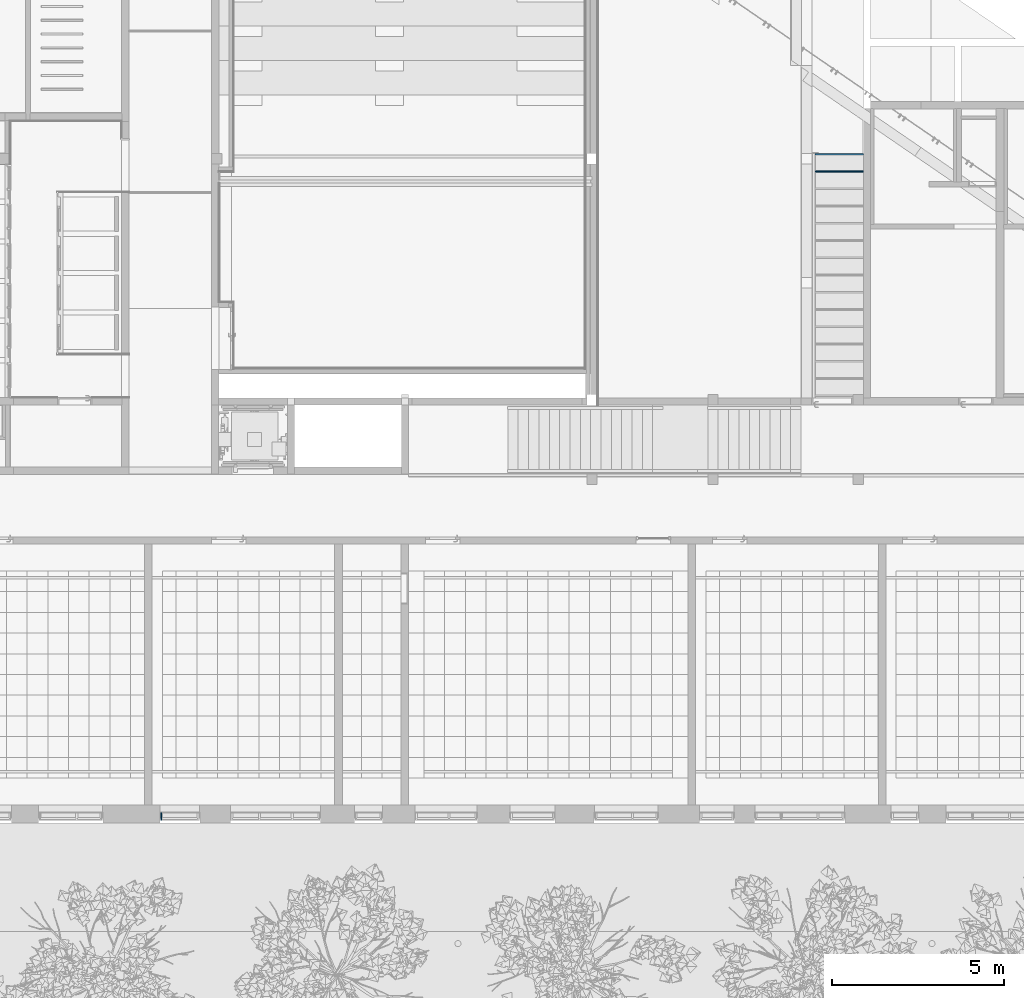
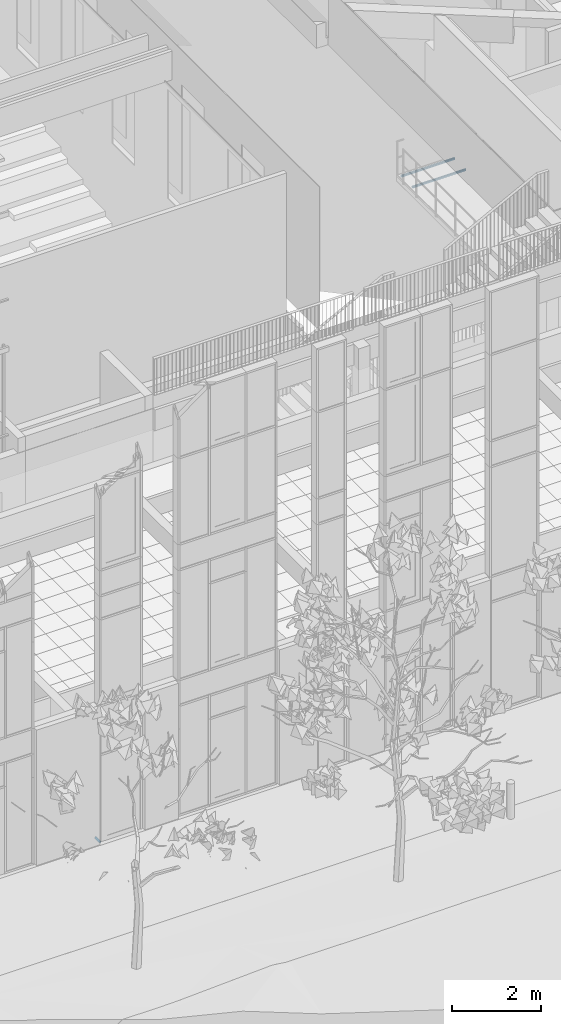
# One storey, part 83 of 246: 2 beams, 1 member, 1 element without a shape of its own.
"""IFC2X3 building model written with IfcOpenShell, lengths in millimetres."""

import ifcopenshell
import ifcopenshell.guid

model = None  # the IFC model being written
_history = None  # IfcOwnerHistory: only IFC2X3 demands one
_inside = {}  # id of a spatial element -> (the spatial element, [elements in it])
_under = {}  # id of a project, library or spatial element -> (it, [spatial elements below it])
_declared = {}  # id of a project -> (the project, [libraries it declares])
_typed = {}  # id of a type object -> (the type object, [elements of that type])
_made_of = {}  # id of a material, layer set ... -> (it, [elements and type objects made of it])


def new_model(schema):
    """Start an empty IFC model of exactly this schema.

    Asked for "IFC4X3", IfcOpenShell would pick the latest addendum, in which some entities
    have other attributes; the version numbers below select the first issue.
    IFC2X3 requires an IfcOwnerHistory on every rooted entity: one is made here for all.
    """
    global model, _history
    if schema == "IFC4X3":
        model = ifcopenshell.file(schema_version=(4, 3, 0, 0))
    else:
        model = ifcopenshell.file(schema=schema)
    _inside.clear()
    _under.clear()
    _declared.clear()
    _typed.clear()
    _made_of.clear()
    _history = None
    if model.schema == "IFC2X3":
        org = make("IfcOrganization", Name="unknown")
        user = make(
            "IfcPersonAndOrganization",
            ThePerson=make("IfcPerson", FamilyName="unknown"),
            TheOrganization=org,
        )
        app = make(
            "IfcApplication",
            ApplicationDeveloper=org,
            Version="unknown",
            ApplicationFullName="unknown",
            ApplicationIdentifier="unknown",
        )
        _history = make(
            "IfcOwnerHistory",
            OwningUser=user,
            OwningApplication=app,
            ChangeAction="ADDED",
            CreationDate=0,
        )
    return model


def make(cls, **values):
    """One entity of the class cls with the attributes given. An attribute that is None is left unset."""
    return model.create_entity(
        cls, **{name: value for name, value in values.items() if value is not None}
    )


def entity(cls, *values):
    """Any entity or typed value of the class cls, its attributes in the order of the schema. None: left unset."""
    e = model.create_entity(cls)
    for i, value in enumerate(values):
        if value is not None:
            e[i] = value
    return e


def rooted(cls, **values):
    """An entity with a GlobalId (a new one), such as an element, a storey or a relation."""
    return make(cls, GlobalId=ifcopenshell.guid.new(), OwnerHistory=_history, **values)


def si_unit(unit_type, name, prefix=None):
    """IfcSIUnit, for example si_unit("LENGTHUNIT", "METRE", prefix="MILLI")."""
    return make("IfcSIUnit", UnitType=unit_type, Prefix=prefix, Name=name)


def converted_unit(unit_type, name, factor, base, dimensions=None, offset=None):
    """IfcConversionBasedUnit, such as the inch: factor (a typed value) times the base unit."""
    return make(
        "IfcConversionBasedUnit"
        if offset is None
        else "IfcConversionBasedUnitWithOffset",
        ConversionOffset=offset,
        Dimensions=None
        if dimensions is None
        else entity("IfcDimensionalExponents", *dimensions),
        UnitType=unit_type,
        Name=name,
        ConversionFactor=make(
            "IfcMeasureWithUnit", ValueComponent=factor, UnitComponent=base
        ),
    )


def derived_unit(unit_type, elements):
    """IfcDerivedUnit: a product of units, each with its exponent."""
    return make(
        "IfcDerivedUnit",
        Elements=[
            make("IfcDerivedUnitElement", Unit=unit, Exponent=power)
            for unit, power in elements
        ],
        UnitType=unit_type,
    )


def money_unit(currency):
    """IfcMonetaryUnit."""
    return make("IfcMonetaryUnit", Currency=currency)


def assignment(units):
    """IfcUnitAssignment: the units of a project."""
    return None if units is None else make("IfcUnitAssignment", Units=units)


def point(xyz):
    """IfcCartesianPoint."""
    return None if xyz is None else make("IfcCartesianPoint", Coordinates=xyz)


def direction(xyz):
    """IfcDirection."""
    return None if xyz is None else make("IfcDirection", DirectionRatios=xyz)


def frame(location, z_axis=None, x_axis=None):
    """IfcAxis2Placement3D, a coordinate frame: its origin and axes. An axis left out is left unset."""
    return make(
        "IfcAxis2Placement3D",
        Location=point(location),
        Axis=direction(z_axis),
        RefDirection=direction(x_axis),
    )


def origin_with_axes():
    """The frame at (0, 0, 0) with the z axis (0, 0, 1) and the x axis (1, 0, 0) written out."""
    return frame((0.0, 0.0, 0.0), z_axis=(0.0, 0.0, 1.0), x_axis=(1.0, 0.0, 0.0))


def place(relative_to, where):
    """IfcLocalPlacement: puts the frame where relative to a parent placement (None: the world)."""
    return make(
        "IfcLocalPlacement", PlacementRelTo=relative_to, RelativePlacement=where
    )


def context(
    kind, dimensions, precision=None, world=None, true_north=None, identifier=None
):
    """IfcGeometricRepresentationContext, for example the 3D "Model" context."""
    return make(
        "IfcGeometricRepresentationContext",
        ContextIdentifier=identifier,
        ContextType=kind,
        CoordinateSpaceDimension=dimensions,
        Precision=precision,
        WorldCoordinateSystem=world,
        TrueNorth=true_north,
    )


def subcontext(parent, identifier, kind, view, scale=None):
    """IfcGeometricRepresentationSubContext, for example "Body" below "Model"."""
    return make(
        "IfcGeometricRepresentationSubContext",
        ContextIdentifier=identifier,
        ContextType=kind,
        ParentContext=parent,
        TargetScale=scale,
        TargetView=view,
    )


def project(units=None, contexts=None):
    """IfcProject with its units and contexts."""
    return rooted(
        "IfcProject",
        Name="project",
        RepresentationContexts=contexts,
        UnitsInContext=assignment(units),
    )


def spatial(cls, under=None, at=None, **own):
    """A site, building, storey or space (cls), placed at a placement, below another one or the project."""
    s = rooted(cls, ObjectPlacement=at, **own)
    if under is not None:
        _under.setdefault(under.id(), (under, []))[1].append(s)
    return s


def faces_of(points, faces, orient=None, outer=None):
    """IfcFace entities. A face is a list of loops; a loop is a list of indices into points, from 0.

    orient and outer hold one flag for each loop. By default every Orientation is true, the
    first loop of a face is its IfcFaceOuterBound and the others are IfcFaceBound.
    """
    made = []
    for i, loops in enumerate(faces):
        bounds = []
        for j, loop in enumerate(loops):
            is_outer = j == 0 if outer is None else outer[i][j]
            bounds.append(
                make(
                    "IfcFaceOuterBound" if is_outer else "IfcFaceBound",
                    Bound=make("IfcPolyLoop", Polygon=[points[k] for k in loop]),
                    Orientation=True if orient is None else orient[i][j],
                )
            )
        made.append(make("IfcFace", Bounds=bounds))
    return made


def faceted_brep(points, faces, orient=None, outer=None, voids=None):
    """IfcFacetedBrep: a solid bounded by flat faces; with voids (closed shells), ...WithVoids."""
    shared = [point(p) for p in points]
    hull = make("IfcClosedShell", CfsFaces=faces_of(shared, faces, orient, outer))
    if voids is None:
        return make("IfcFacetedBrep", Outer=hull)
    return make(
        "IfcFacetedBrepWithVoids",
        Outer=hull,
        Voids=[
            make(cls, CfsFaces=faces_of(shared, fs, o, b)) for cls, fs, o, b in voids
        ],
    )


def shape(context_of_items, identifier, shape_type, items):
    """IfcShapeRepresentation: the items that make up one representation, for example the "Body"."""
    return make(
        "IfcShapeRepresentation",
        ContextOfItems=context_of_items,
        RepresentationIdentifier=identifier,
        RepresentationType=shape_type,
        Items=items,
    )


def material(Name=None, Category=None):
    """IfcMaterial."""
    return make("IfcMaterial", Name=Name, Category=Category)


def made_of(thing, what):
    """Note that an element or type object is made of a material, layer set ...; save() writes the relation."""
    if what is not None:
        _made_of.setdefault(what.id(), (what, []))[1].append(thing)
    return thing


def type_object(cls, material=None, **own):
    """A type object (cls), such as IfcWallType, which elements share."""
    return made_of(rooted(cls, **own), material)


def element(
    cls,
    number,
    at=None,
    inside=None,
    cuts=None,
    type_object=None,
    material=None,
    context=None,
    identifier="Body",
    shape_type=None,
    held_by="IfcProductDefinitionShape",
    body=None,
    shapes=None,
    **own,
):
    """One element of the class cls, such as IfcWall. Its Tag is "e" and its number.

    at: its placement. inside: the storey or other place that contains it. cuts: it is an
    opening in that element (IfcRelVoidsElement). A single representation is given by context,
    identifier, shape_type and body (its items); several are given by shapes. held_by: the class
    of the entity that holds the representations. save() writes the other relations.
    """
    e = rooted(cls, Tag="e%d" % number, ObjectPlacement=at, **own)
    if body is not None:
        shapes = [shape(context, identifier, shape_type, body)]
    if shapes is not None:
        e.Representation = make(held_by, Representations=shapes)
    if inside is not None:
        _inside.setdefault(inside.id(), (inside, []))[1].append(e)
    if cuts is not None:
        rooted(
            "IfcRelVoidsElement", RelatingBuildingElement=cuts, RelatedOpeningElement=e
        )
    if type_object is not None:
        _typed.setdefault(type_object.id(), (type_object, []))[1].append(e)
    return made_of(e, material)


def aggregate(whole, parts):
    """IfcRelAggregates: a whole, such as a stair, and the parts it consists of."""
    return rooted("IfcRelAggregates", RelatingObject=whole, RelatedObjects=parts)


def save(model, path):
    """Write the relations noted so far, then the file.

    IfcRelAggregates (storeys below a building ...), IfcRelContainedInSpatialStructure (elements
    in a storey), IfcRelDefinesByType, IfcRelAssociatesMaterial and IfcRelDeclares: one each for
    every whole, place, type object, material and project.
    """
    for whole, parts in _under.values():
        aggregate(whole, parts)
    for where, things in _inside.values():
        rooted(
            "IfcRelContainedInSpatialStructure",
            RelatedElements=things,
            RelatingStructure=where,
        )
    for kind, things in _typed.values():
        rooted("IfcRelDefinesByType", RelatedObjects=things, RelatingType=kind)
    for what, things in _made_of.values():
        rooted("IfcRelAssociatesMaterial", RelatedObjects=things, RelatingMaterial=what)
    for by, libraries in _declared.values():
        rooted("IfcRelDeclares", RelatingContext=by, RelatedDefinitions=libraries)
    model.write(path)


model = new_model("IFC2X3")

# Units and contexts
model_context = context("Model", 3, precision=0.01, world=origin_with_axes(), true_north=direction((0.0, 1.0)))
body_context = subcontext(model_context, "Body", "Model", "MODEL_VIEW")
ifc_project = project(units=[si_unit("LENGTHUNIT", "METRE", prefix="MILLI"), si_unit("AREAUNIT", "SQUARE_METRE"), si_unit("VOLUMEUNIT", "CUBIC_METRE"), converted_unit("PLANEANGLEUNIT", "DEGREE", entity("IfcPlaneAngleMeasure", 0.0174532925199), si_unit("PLANEANGLEUNIT", "RADIAN"), dimensions=[0, 0, 0, 0, 0, 0, 0]), si_unit("SOLIDANGLEUNIT", "STERADIAN"), money_unit("EUR"), converted_unit("TIMEUNIT", "Year", entity("IfcTimeMeasure", 31556926.0), si_unit("TIMEUNIT", "SECOND"), dimensions=[0, 0, 1, 0, 0, 0, 0]), si_unit("MASSUNIT", "GRAM", prefix="KILO"), si_unit("THERMODYNAMICTEMPERATUREUNIT", "DEGREE_CELSIUS"), si_unit("LUMINOUSINTENSITYUNIT", "LUMEN"), si_unit("ENERGYUNIT", "JOULE", prefix="MEGA"), derived_unit("THERMALCONDUCTANCEUNIT", [(si_unit("POWERUNIT", "WATT"), 1), (si_unit("LENGTHUNIT", "METRE"), -1), (si_unit("THERMODYNAMICTEMPERATUREUNIT", "KELVIN"), -1)]), derived_unit("SPECIFICHEATCAPACITYUNIT", [(si_unit("ENERGYUNIT", "JOULE"), 1), (si_unit("MASSUNIT", "GRAM", prefix="KILO"), -1), (si_unit("THERMODYNAMICTEMPERATUREUNIT", "KELVIN"), -1)]), derived_unit("MASSDENSITYUNIT", [(si_unit("MASSUNIT", "GRAM", prefix="KILO"), 1), (si_unit("VOLUMEUNIT", "CUBIC_METRE"), -1)])], contexts=[model_context])

# Site, building, storey
site_placement = place(None, origin_with_axes())
site = spatial("IfcSite", under=ifc_project, at=site_placement, Name="L.Koidula tn 11b", CompositionType="ELEMENT")
building_placement = place(site_placement, origin_with_axes())
building = spatial("IfcBuilding", under=site, at=building_placement, Name="Rakvere Riigigümnaasium", CompositionType="ELEMENT")
storey_placement = place(building_placement, origin_with_axes())
storey = spatial("IfcBuildingStorey", under=building, at=storey_placement, Name="1.korrus 0,00", CompositionType="ELEMENT", Elevation=0.0)

# Beams
ifc_material_1 = material(Name="teras_must")
beam_type = type_object("IfcBeamType", Name="SHS50x50x4-AR 50 x 50", PredefinedType="BEAM")
beam_1_placement = place(storey_placement, frame((64460.0209314, 23875.4556024, -54.9862868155), z_axis=(0.0, 0.0, 1.0), x_axis=(0.0, -1.0, 0.0)))
element("IfcBeam", 1, at=beam_1_placement, inside=storey, type_object=beam_type, material=ifc_material_1, Name="TALA", ObjectType="BEAM", context=body_context, shape_type="Brep", body=[
    faceted_brep([(-22.8994949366, 47.0710678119, 22.0710678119), (22.8994949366, 47.0710678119, 22.0710678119), (22.6568542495, 45.6568542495, 22.6568542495), (17.0, 40.0, 25.0), (-17.0, 40.0, 25.0), (-22.6568542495, 45.6568542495, 22.6568542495), (25.0, 50.0, 15.0), (25.0, 49.1715728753, 17.0), (-25.0, 49.1715728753, 17.0), (-25.0, 50.0, 15.0), (-21.0, 50.0, 15.0), (-21.0, 49.1715728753, 17.0), (-19.8284271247, 48.0, 19.8284271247), (-17.0, 47.5147186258, 21.0), (17.0, 47.5147186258, 21.0), (19.8284271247, 48.0, 19.8284271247), (21.0, 49.1715728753, 17.0), (21.0, 50.0, 15.0), (25.0, 1439.97714151, 17.0), (22.6568542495, 1439.97714151, 22.6568542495), (17.0, 1439.97714151, 25.0), (-17.0, 1439.97714151, 25.0), (-22.6568542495, 1439.97714151, 22.6568542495), (-25.0, 1439.97714151, 17.0), (25.0, 50.0, -17.0), (25.0, 1439.97714151, -17.0), (-25.0, 1439.97714151, -17.0), (-25.0, 50.0, -17.0), (17.0, 50.0, -25.0), (22.6568542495, 50.0, -22.6568542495), (21.0, 50.0, -17.0), (19.8284271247, 50.0, -19.8284271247), (17.0, 50.0, -21.0), (-17.0, 50.0, -21.0), (-19.8284271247, 50.0, -19.8284271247), (-21.0, 50.0, -17.0), (-22.6568542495, 50.0, -22.6568542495), (-17.0, 50.0, -25.0), (-21.0, 1439.97714151, 17.0), (-21.0, 1439.97714151, -17.0), (-19.8284271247, 1439.97714151, 19.8284271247), (-17.0, 1439.97714151, 21.0), (17.0, 1439.97714151, 21.0), (19.8284271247, 1439.97714151, 19.8284271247), (21.0, 1439.97714151, 17.0), (21.0, 1439.97714151, -17.0), (22.6568542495, 1439.97714151, -22.6568542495), (17.0, 1439.97714151, -25.0), (-17.0, 1439.97714151, -25.0), (-22.6568542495, 1439.97714151, -22.6568542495), (17.0, 1439.97714151, -21.0), (19.8284271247, 1439.97714151, -19.8284271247), (-19.8284271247, 1439.97714151, -19.8284271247), (-17.0, 1439.97714151, -21.0)], [[[0, 1, 2, 3, 4, 5]], [[6, 7, 1, 0, 8, 9, 10, 11, 12, 13, 14, 15, 16, 17]], [[2, 1, 7, 18, 19]], [[20, 3, 2, 19]], [[21, 4, 3, 20]], [[22, 5, 4, 21]], [[23, 8, 0, 5, 22]], [[6, 24, 25, 18, 7]], [[26, 27, 9, 8, 23]], [[28, 29, 24, 6, 17, 30, 31, 32, 33, 34, 35, 10, 9, 27, 36, 37]], [[38, 11, 10, 35, 39]], [[40, 12, 11, 38]], [[41, 13, 12, 40]], [[42, 14, 13, 41]], [[43, 15, 14, 42]], [[44, 16, 15, 43]], [[30, 17, 16, 44, 45]], [[18, 25, 46, 47, 48, 49, 26, 23, 22, 21, 20, 19], [50, 51, 45, 44, 43, 42, 41, 40, 38, 39, 52, 53]], [[25, 24, 29, 46]], [[49, 36, 27, 26]], [[46, 29, 28, 47]], [[51, 31, 30, 45]], [[50, 32, 31, 51]], [[53, 33, 32, 50]], [[52, 34, 33, 53]], [[39, 35, 34, 52]], [[48, 37, 36, 49]], [[47, 28, 37, 48]]]),
])
beam_2_placement = place(storey_placement, frame((64460.0209314, 24375.4556024, -54.9862868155), z_axis=(0.0, 0.0, 1.0), x_axis=(0.0, -1.0, 0.0)))
element("IfcBeam", 2, at=beam_2_placement, inside=storey, type_object=beam_type, material=ifc_material_1, Name="TALA", ObjectType="BEAM", context=body_context, shape_type="Brep", body=[
    faceted_brep([(-22.8994949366, 47.0710678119, 22.0710678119), (22.8994949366, 47.0710678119, 22.0710678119), (22.6568542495, 45.6568542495, 22.6568542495), (17.0, 40.0, 25.0), (-17.0, 40.0, 25.0), (-22.6568542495, 45.6568542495, 22.6568542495), (25.0, 50.0, 15.0), (25.0, 49.1715728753, 17.0), (-24.9999997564, 49.1715726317, 17.0000005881), (-25.0, 50.0, 15.0), (-21.0, 50.0, 15.0), (-21.0, 49.1715728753, 17.0), (-19.8284271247, 48.0, 19.8284271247), (-17.0, 47.5147186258, 21.0), (17.0, 47.5147186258, 21.0), (19.8284271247, 48.0, 19.8284271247), (21.0, 49.1715728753, 17.0), (21.0, 50.0, 15.0), (25.0, 1439.97714151, 17.0), (22.6568542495, 1439.97714151, 22.6568542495), (17.0, 1439.97714151, 25.0), (-17.0, 1439.97714151, 25.0), (-22.6568542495, 1439.97714151, 22.6568542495), (-25.0, 1439.97714151, 17.0), (25.0, 50.0, -17.0), (25.0, 1439.97714151, -17.0), (-25.0, 1439.97714151, -17.0), (-25.0, 50.0, -17.0), (17.0, 50.0, -25.0), (22.6568542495, 50.0, -22.6568542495), (21.0, 50.0, -17.0), (19.8284271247, 50.0, -19.8284271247), (17.0, 50.0, -21.0), (-17.0, 50.0, -21.0), (-19.8284271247, 50.0, -19.8284271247), (-21.0, 50.0, -17.0), (-22.6568542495, 50.0, -22.6568542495), (-17.0, 50.0, -25.0), (-21.0, 1439.97714151, 17.0), (-21.0, 1439.97714151, -17.0), (-19.8284271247, 1439.97714151, 19.8284271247), (-17.0, 1439.97714151, 21.0), (17.0, 1439.97714151, 21.0), (19.8284271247, 1439.97714151, 19.8284271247), (21.0, 1439.97714151, 17.0), (21.0, 1439.97714151, -17.0), (22.6568542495, 1439.97714151, -22.6568542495), (17.0, 1439.97714151, -25.0), (-17.0, 1439.97714151, -25.0), (-22.6568542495, 1439.97714151, -22.6568542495), (17.0, 1439.97714151, -21.0), (19.8284271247, 1439.97714151, -19.8284271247), (-19.8284271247, 1439.97714151, -19.8284271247), (-17.0, 1439.97714151, -21.0)], [[[0, 1, 2, 3, 4, 5]], [[6, 7, 1, 0, 8, 9, 10, 11, 12, 13, 14, 15, 16, 17]], [[2, 1, 7, 18, 19]], [[20, 3, 2, 19]], [[21, 4, 3, 20]], [[22, 5, 4, 21]], [[23, 8, 0, 5, 22]], [[6, 24, 25, 18, 7]], [[26, 27, 9, 8, 23]], [[28, 29, 24, 6, 17, 30, 31, 32, 33, 34, 35, 10, 9, 27, 36, 37]], [[38, 11, 10, 35, 39]], [[40, 12, 11, 38]], [[41, 13, 12, 40]], [[42, 14, 13, 41]], [[43, 15, 14, 42]], [[44, 16, 15, 43]], [[45, 30, 17, 16, 44]], [[18, 25, 46, 47, 48, 49, 26, 23, 22, 21, 20, 19], [50, 51, 45, 44, 43, 42, 41, 40, 38, 39, 52, 53]], [[25, 24, 29, 46]], [[49, 36, 27, 26]], [[46, 29, 28, 47]], [[51, 31, 30, 45]], [[50, 32, 31, 51]], [[53, 33, 32, 50]], [[52, 34, 33, 53]], [[39, 35, 34, 52]], [[48, 37, 36, 49]], [[47, 28, 37, 48]]]),
])

# Curtain wall, member
curtain_wall_type = type_object("IfcCurtainWallType", Name="Curtain Wall Type", PredefinedType="NOTDEFINED")
curtain_wall_placement = place(storey_placement, frame((45905.0206042, 5111.45334637, -8.09717236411e-06), z_axis=(0.0, 0.0, 1.0), x_axis=(1.0, 0.0, 0.0)))
curtain_wall = element("IfcCurtainWall", 3, at=curtain_wall_placement, inside=storey, type_object=curtain_wall_type, Name="KLF-05-1B")
ifc_material_2 = material(Name="Alumiiniumprofiil (RAL 7021)")
member_type = type_object("IfcMemberType", Name="Boundary Frame 50 x 222", PredefinedType="MULLION")
member_placement = place(curtain_wall_placement, frame((-385.509964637, 0.0, 0.0), z_axis=(1.0, 0.0, 0.0), x_axis=(0.0, 0.0, 1.0)))
member = element("IfcMember", 4, at=member_placement, type_object=member_type, material=ifc_material_2, Name="KLF-05-4A-Profiilid", ObjectType="MULLION", context=body_context, shape_type="Brep", body=[
    faceted_brep([(0.0, 53.0, 0.0), (0.0, 53.0, 36.5294716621), (36.5294716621, 53.0, 36.5294716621), (0.0, -169.0, 0.0), (0.0, -169.0, 36.5294716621), (36.5294716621, -169.0, 36.5294716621)], [[[0, 1, 2]], [[3, 4, 1, 0]], [[2, 1, 4, 5]], [[2, 5, 3, 0]], [[5, 4, 3]]]),
])
aggregate(curtain_wall, [member])

save(model, "model.ifc")
